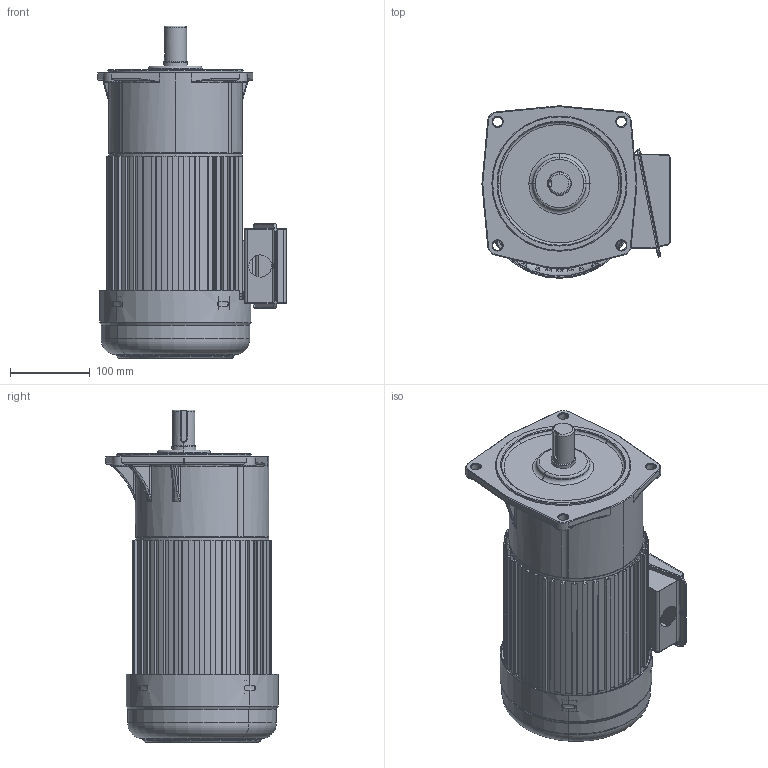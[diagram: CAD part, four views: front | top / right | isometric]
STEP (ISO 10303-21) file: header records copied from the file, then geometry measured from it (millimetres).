
FILE_DESCRIPTION(('HOOPS Exchange Step'),'2;1');
FILE_NAME('C:/ModelConvertServices/TZT.New3D001/output/949ddb60-2d36-4a53-ac45-4170837feb21/ZV1500-CZ-3K-30K(28轴）.step','2026-07-28T12:33:01+08:00',('SYSTEM'),('Unknown organisation'),'HOOPS Exchange 2024.3','HOOPS Exchange','Unknown authorisation');
FILE_SCHEMA( ('AP203_CONFIGURATION_CONTROLLED_3D_DESIGN_OF_MECHANICAL_PARTS_AND_ASSEMBLIES_MIM_LF') );
Length unit declared in the file: millimetre
Products named in the file (1): AdmiE513rs63
Bounding box: 236.56 x 216.46 x 417.5 mm (x, y, z)
Volume: 7087813.9 mm3; surface area: 581527.9 mm2
Topology: 1 solids, 1 shells, 1519 faces, 4273 edges, 2779 vertices
Faces by surface type: plane 859, cylinder 453, torus 84, cone 71, bspline 42, sphere 10
Entity records: 53582 total; most frequent: CARTESIAN_POINT 13435, ORIENTED_EDGE 8538, DIRECTION 8079, EDGE_CURVE 4269, VECTOR 2865, LINE 2865, VERTEX_POINT 2779, AXIS2_PLACEMENT_3D 2607
